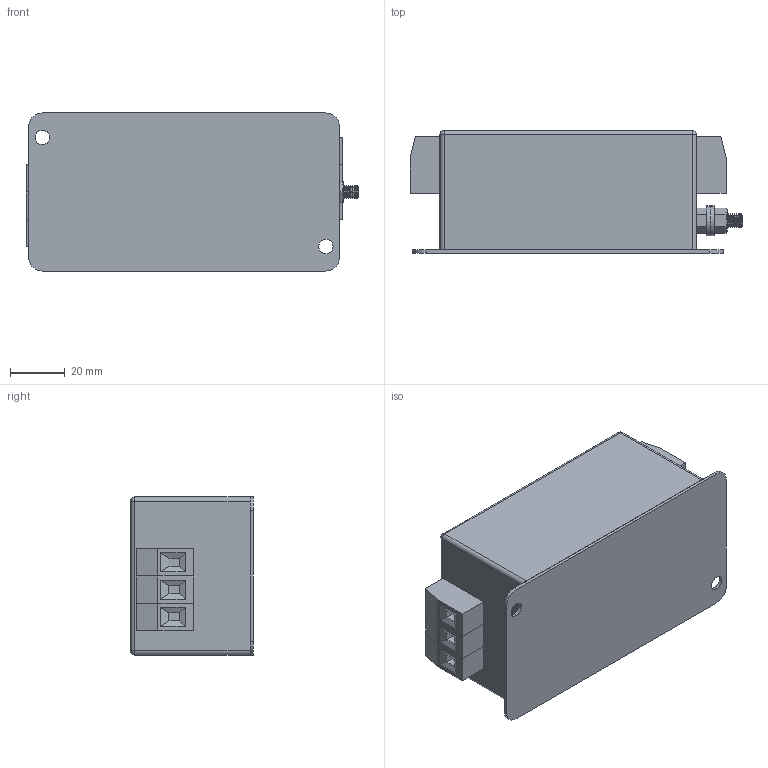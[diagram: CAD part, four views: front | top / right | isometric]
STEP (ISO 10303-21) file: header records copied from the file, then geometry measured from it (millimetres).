
FILE_DESCRIPTION (( 'STEP AP203' ), '1' );
FILE_NAME ('NF-DAR-10-3.STEP', '2018-09-21T10:36:30', ( '' ), ( '' ), 'SwSTEP 2.0', 'SolidWorks 2017', '' );
FILE_SCHEMA (( 'CONFIG_CONTROL_DESIGN' ));
Length unit declared in the file: millimetre
Products named in the file (8): VDFK4x3; hex screw_am_B18.6.7M - M5 x 0.8 x 13 Indented HHMS --13S; VDFK-4; hex nut style 1_am_B18.2.4.1M - Hex nut, Style 1,  M5 x 0.8 --D-N; NF-DAR-10A case; NF-DAR-10-3; flat washer narrow_am_B18.22M - Plain washer, 5 mm, narrow; M5x13 Earth post
Assembly tree (11 placements, depth 3):
  NF-DAR-10-3
    NF-DAR-10A case
    VDFK4x3  x2
      VDFK-4
    M5x13 Earth post
      hex screw_am_B18.6.7M - M5 x 0.8 x 13 Indented HHMS --13S
      flat washer narrow_am_B18.22M - Plain washer, 5 mm, narrow  x2
      hex nut style 1_am_B18.2.4.1M - Hex nut, Style 1,  M5 x 0.8 --D-N
Bounding box: 121.8 x 45 x 58 mm (x, y, z)
Volume: 258478.9 mm3; surface area: 48955.1 mm2
Topology: 12 solids, 12 shells, 433 faces, 1040 edges, 660 vertices
Faces by surface type: plane 239, cylinder 102, cone 88, sphere 4
Entity records: 8139 total; most frequent: CARTESIAN_POINT 1355, DIRECTION 1347, ORIENTED_EDGE 1158, EDGE_CURVE 579, AXIS2_PLACEMENT_3D 546, VERTEX_POINT 362, CIRCLE 288, EDGE_LOOP 263
